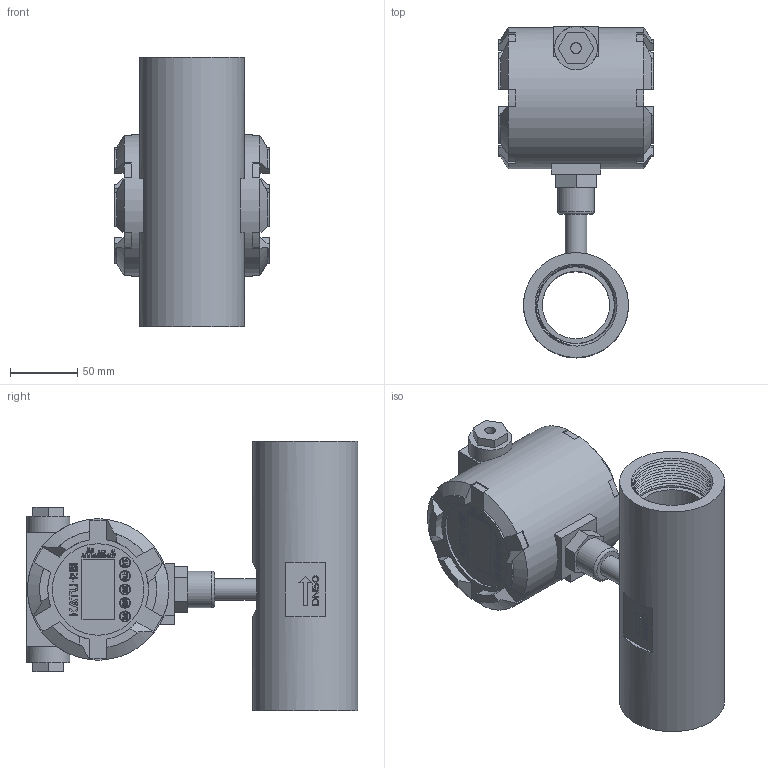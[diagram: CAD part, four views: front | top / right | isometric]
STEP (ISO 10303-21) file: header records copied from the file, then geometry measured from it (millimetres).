
FILE_DESCRIPTION( (''), '2;1');
FILE_NAME( 'QTKC_DN50_female-thread_Ex.step', '2024-10-14T14:43:38+08:00', (''), (''), '', '', '');
FILE_SCHEMA (('AUTOMOTIVE_DESIGN { 1 0 10303 214 3 1 1 1 }'));
Length unit declared in the file: millimetre
Products named in the file (1): QTKC DN50_female-thread_Ex
Bounding box: 115 x 246.5 x 200 mm (x, y, z)
Volume: 1462570.8 mm3; surface area: 175897.1 mm2
Topology: 4 solids, 4 shells, 1478 faces, 4060 edges, 2699 vertices
Faces by surface type: plane 862, extrusion 504, cylinder 71, bspline 20, cone 15, torus 6
Full cylindrical faces by diameter (mm): 3.3 x1, 8 x2, 15 x1, 16 x1, 18.5 x1, 20 x2, 27 x1, 32 x2, 50 x1, 57 x1, 68 x1, 78 x1, 105 x1
Entity records: 51735 total; most frequent: CARTESIAN_POINT 16495, ORIENTED_EDGE 8018, DIRECTION 5452, EDGE_CURVE 4009, VECTOR 3174, VERTEX_POINT 2677, LINE 2670, B_SPLINE_CURVE_WITH_KNOTS 1658
